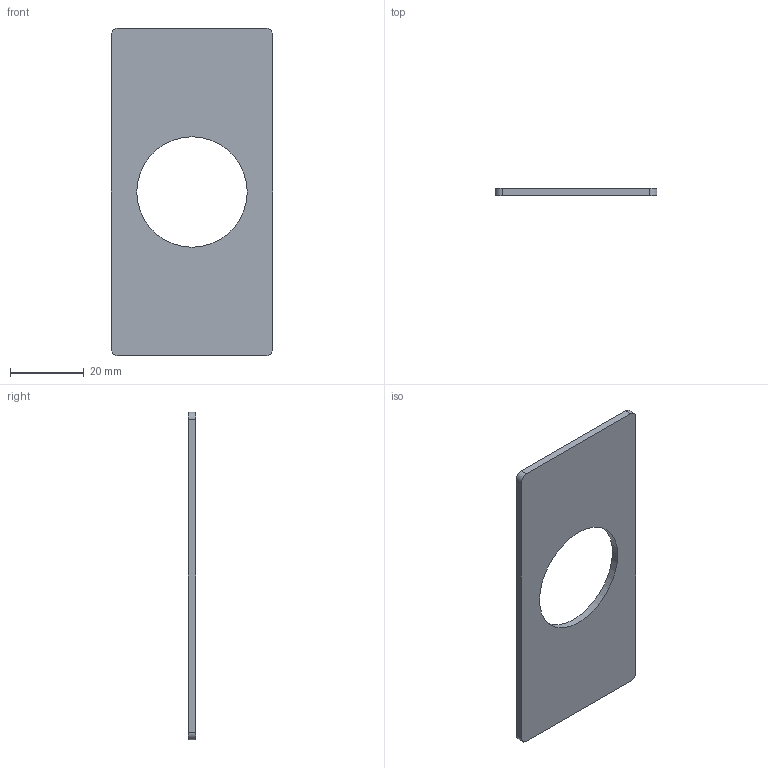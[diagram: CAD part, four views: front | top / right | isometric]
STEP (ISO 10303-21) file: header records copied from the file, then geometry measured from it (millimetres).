
FILE_DESCRIPTION((''),'2;1');
FILE_NAME('TAP045090_2','2002-12-27T',('Lipro doo'),('Lipro d.o.o.'),'PRO/ENGINEER BY PARAMETRIC TECHNOLOGY CORPORATION, 2001150','PRO/ENGINEER BY PARAMETRIC TECHNOLOGY CORPORATION, 2001150','');
FILE_SCHEMA(('CONFIG_CONTROL_DESIGN'));
Length unit declared in the file: millimetre
Products named in the file (1): TAP045090_2
Bounding box: 44 x 2 x 89 mm (x, y, z)
Volume: 6411.4 mm3; surface area: 7125 mm2
Topology: 1 solids, 1 shells, 12 faces, 30 edges, 20 vertices
Faces by surface type: plane 6, cylinder 6
Entity records: 408 total; most frequent: DIRECTION 66, CARTESIAN_POINT 62, ORIENTED_EDGE 60, EDGE_CURVE 30, AXIS2_PLACEMENT_3D 24, VERTEX_POINT 20, VECTOR 18, LINE 18
